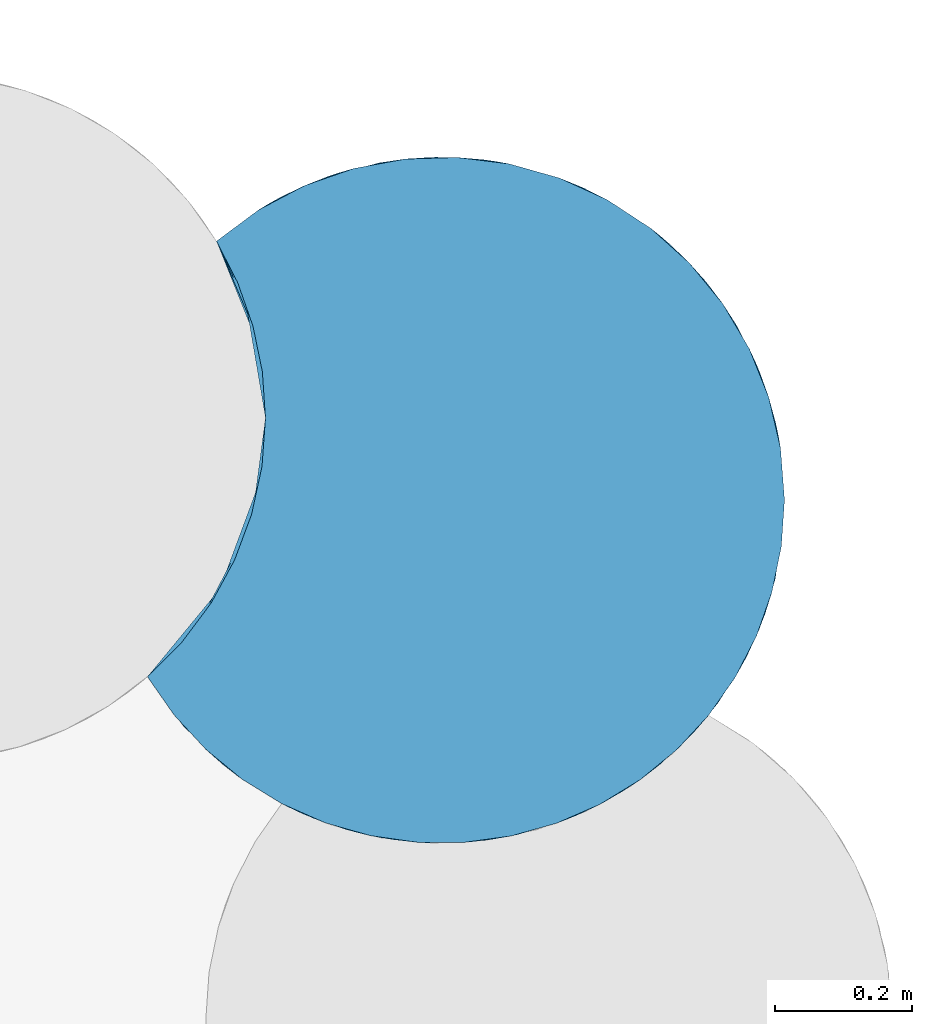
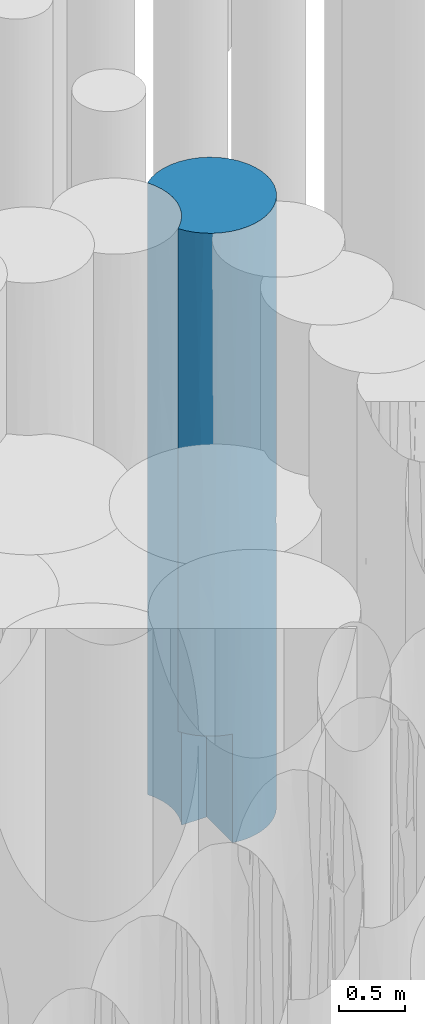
# One storey, part 47 of 104: 1 pile.
"""IFC2X3 building model written with IfcOpenShell, lengths in millimetres."""

from ifc_helpers import new_model, entity, si_unit, converted_unit, derived_unit, direction, frame, origin, place, context, subcontext, project, spatial, faceted_brep, source, transform, mapped, material, element, save


model = new_model("IFC2X3")

# Units and contexts
model_context = context("Model", 3, precision=0.01, world=origin(), true_north=direction((6.12303176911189e-17, 1.0)))
body_context = subcontext(model_context, "Body", "Model", "MODEL_VIEW")
ifc_project = project(units=[si_unit("LENGTHUNIT", "METRE", prefix="MILLI"), si_unit("AREAUNIT", "SQUARE_METRE", prefix="MILLI"), si_unit("VOLUMEUNIT", "CUBIC_METRE"), converted_unit("PLANEANGLEUNIT", "DEGREE", entity("IfcRatioMeasure", 0.0174532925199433), si_unit("PLANEANGLEUNIT", "RADIAN"), dimensions=[0, 0, 0, 0, 0, 0, 0]), si_unit("MASSUNIT", "GRAM", prefix="KILO"), derived_unit("MASSDENSITYUNIT", [(si_unit("MASSUNIT", "GRAM", prefix="KILO"), 1), (si_unit("LENGTHUNIT", "METRE"), -3)]), derived_unit("MOMENTOFINERTIAUNIT", [(si_unit("LENGTHUNIT", "METRE"), 4)]), si_unit("TIMEUNIT", "SECOND"), si_unit("FREQUENCYUNIT", "HERTZ"), si_unit("THERMODYNAMICTEMPERATUREUNIT", "DEGREE_CELSIUS"), derived_unit("THERMALTRANSMITTANCEUNIT", [(si_unit("MASSUNIT", "GRAM", prefix="KILO"), 1), (si_unit("THERMODYNAMICTEMPERATUREUNIT", "KELVIN"), -1), (si_unit("TIMEUNIT", "SECOND"), -3)]), derived_unit("VOLUMETRICFLOWRATEUNIT", [(si_unit("LENGTHUNIT", "METRE"), 3), (si_unit("TIMEUNIT", "SECOND"), -1)]), si_unit("ELECTRICCURRENTUNIT", "AMPERE"), si_unit("ELECTRICVOLTAGEUNIT", "VOLT"), si_unit("POWERUNIT", "WATT"), si_unit("FORCEUNIT", "NEWTON", prefix="KILO"), si_unit("ILLUMINANCEUNIT", "LUX"), si_unit("LUMINOUSFLUXUNIT", "LUMEN"), si_unit("LUMINOUSINTENSITYUNIT", "CANDELA"), derived_unit("USERDEFINED", [(si_unit("MASSUNIT", "GRAM", prefix="KILO"), -1), (si_unit("LENGTHUNIT", "METRE"), -2), (si_unit("TIMEUNIT", "SECOND"), 3), (si_unit("LUMINOUSFLUXUNIT", "LUMEN"), 1)]), derived_unit("LINEARVELOCITYUNIT", [(si_unit("LENGTHUNIT", "METRE"), 1), (si_unit("TIMEUNIT", "SECOND"), -1)]), si_unit("PRESSUREUNIT", "PASCAL"), derived_unit("USERDEFINED", [(si_unit("LENGTHUNIT", "METRE"), -2), (si_unit("MASSUNIT", "GRAM", prefix="KILO"), 1), (si_unit("TIMEUNIT", "SECOND"), -2)]), derived_unit("LINEARFORCEUNIT", [(si_unit("MASSUNIT", "GRAM", prefix="KILO"), 1), (si_unit("LENGTHUNIT", "METRE"), 1), (si_unit("TIMEUNIT", "SECOND"), -2), (si_unit("LENGTHUNIT", "METRE"), -1)]), derived_unit("PLANARFORCEUNIT", [(si_unit("MASSUNIT", "GRAM", prefix="KILO"), 1), (si_unit("LENGTHUNIT", "METRE"), 1), (si_unit("TIMEUNIT", "SECOND"), -2), (si_unit("LENGTHUNIT", "METRE"), -2)])], contexts=[model_context])

# Site, building, storey
site_placement = place(None, origin())
site = spatial("IfcSite", under=ifc_project, at=site_placement, Name="Theater aan de Parade", CompositionType="ELEMENT")
building_placement = place(site_placement, origin())
building = spatial("IfcBuilding", under=site, at=building_placement, Name="Theater aan de Parade", CompositionType="ELEMENT")
storey_placement = place(building_placement, frame((0.0, 0.0, -5520.0)))
storey = spatial("IfcBuildingStorey", under=building, at=storey_placement, Name="-2 kelder", CompositionType="ELEMENT", Elevation=-5520.0)

# Pile
ifc_material = material(Name="00_PBT_MAT_grout")
shared_shape = source(origin(), body_context, "Body", "Brep", [
    faceted_brep([(602.379186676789, 970.548209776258, 0.0), (671.652243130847, 938.971021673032, 0.0), (735.328670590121, 897.242568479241, 0.0), (791.932117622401, 846.330048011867, 0.0), (840.150143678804, 787.413596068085, 0.0), (878.864648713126, 721.858943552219, 0.0), (907.177801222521, 651.185770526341, 0.0), (924.432800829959, 577.032898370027, 0.0), (930.229431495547, 501.118276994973, 0.0), (925.639370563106, 433.523955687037, 0.0), (911.956450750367, 367.181430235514, 0.0), (889.432574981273, 303.298983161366, 0.0), (858.482788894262, 243.050336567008, 0.0), (819.667111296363, 187.535826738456, 0.0), (774.363740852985, 138.390311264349, 0.0), (722.901318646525, 95.7256691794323, 0.0), (666.208283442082, 60.3076811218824, 0.0), (605.297210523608, 32.7687571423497, 0.0), (541.255826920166, 13.6009547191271, 0.0), (475.227722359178, 3.14723986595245, 0.0), (408.394420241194, 1.5952722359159, 0.0), (341.942729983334, 8.97453951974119, 0.0), (341.942729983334, 401.118276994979, 0.0), (122.656889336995, 401.118276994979, 0.0), (144.750451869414, 453.57155352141, 0.0), (160.738279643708, 508.189963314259, 0.0), (170.415249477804, 564.265502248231, 0.0), (173.658002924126, 621.118276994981, 0.0), (169.094257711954, 688.519444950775, 0.0), (155.486333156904, 754.690205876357, 0.0), (133.082641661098, 818.422613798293, 0.0), (102.292162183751, 878.553234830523, 0.0), (163.390066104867, 923.96192786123, 0.0), (230.677296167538, 959.571050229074, 0.0), (302.59079739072, 984.552221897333, 0.0), (377.463519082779, 998.326240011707, 0.0), (453.559788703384, 1000.57367483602, 0.0), (529.115537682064, 991.242279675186, 0.0), (817.164120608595, 817.790894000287, 4647.76836272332), (840.877709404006, 786.369029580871, 3611.80782436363), (764.600815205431, 872.865204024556, 3887.8370042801), (888.590771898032, 700.880339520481, 4800.81849770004), (917.218740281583, 614.438236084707, 4681.73780230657), (894.368330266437, 687.062039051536, 3965.79139462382), (377.463518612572, 998.326239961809, 5620.0), (382.61058385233, 998.845557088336, 4508.85922533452), (302.590796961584, 984.55222178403, 5620.0), (922.217157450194, 590.270268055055, 1092.91890815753), (837.16657048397, 791.638783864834, 1111.19786070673), (894.36833103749, 687.062037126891, 1289.1442811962), (510.586943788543, 994.618702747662, 866.478931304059), (637.617585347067, 956.079982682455, 1373.4982588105), (930.229431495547, 501.118276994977, 5620.0), (930.229431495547, 501.118276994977, 4058.46227496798), (860.756925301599, 755.374205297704, 2426.74785478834), (266.157907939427, 973.432298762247, 4330.96133337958), (764.600815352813, 872.865203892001, 1592.21744019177), (453.559788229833, 1000.57367485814, 5620.0), (491.5155196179, 997.348077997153, 4027.88301993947), (812.660521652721, 823.215251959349, 2849.13152232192), (745.444852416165, 889.240987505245, 2740.02722187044), (750.032848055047, 885.469385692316, 4753.52187099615), (791.932117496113, 846.330048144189, 5620.0), (230.677295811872, 959.571050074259, 5620.0), (637.617584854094, 956.079982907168, 2810.0), (637.61758521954, 956.079982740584, 4246.53090933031), (920.153425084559, 600.990598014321, 3173.44484994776), (930.229431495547, 501.118276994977, 2496.92454993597), (919.143252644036, 605.823938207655, 2029.23111081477), (491.515519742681, 997.348077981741, 1732.1553657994), (415.468817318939, 1000.90035377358, 972.222106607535), (907.17780121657, 651.185770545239, 5620.0), (840.150143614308, 787.413596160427, 5620.0), (102.292162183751, 878.553234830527, 1561.53797614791), (196.354976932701, 943.04897235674, 938.288487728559), (422.508702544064, 1001.0586637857, 2770.86397392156), (516.435165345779, 993.630785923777, 2880.01919244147), (735.328670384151, 897.242568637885, 5620.0), (280.387611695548, 978.137594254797, 819.251114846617), (930.229431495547, 501.118276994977, 1561.53772503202), (102.292162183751, 878.553234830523, 4058.46202385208), (188.599272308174, 938.856630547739, 3590.76885427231), (102.292162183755, 878.553234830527, 3123.07595229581), (184.286943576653, 936.448373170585, 2446.64862878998), (174.837858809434, 930.973071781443, 4526.92521130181), (266.157908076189, 973.432298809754, 1654.3025538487), (671.652242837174, 938.97102183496, 5620.0), (924.432800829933, 577.032898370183, 5620.0), (602.379186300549, 970.548209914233, 5620.0), (339.764625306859, 992.866300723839, 3193.45998080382), (102.292162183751, 878.553234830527, 2809.99988146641), (529.115537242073, 991.24227976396, 5620.0), (102.292162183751, 878.553234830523, 5620.0), (163.390065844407, 923.961927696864, 5620.0), (376.201088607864, 998.190644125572, 2008.1114931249), (930.229431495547, 501.118276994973, 3123.07541184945), (878.864648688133, 721.85894360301, 5620.0), (112.330746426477, 115.190270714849, 2432.4527543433), (139.360981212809, 94.4297664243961, 1000.0), (207.44649744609, 53.4936973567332, 2092.86011454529), (859.224380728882, 244.284997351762, 922.688338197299), (220.270624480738, 47.3371630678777, 3310.0051591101), (228.323333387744, 43.6973247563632, 4485.24606561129), (112.327299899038, 115.193109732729, 4187.52616095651), (857.344461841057, 241.170684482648, 4514.37585468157), (797.189176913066, 161.500042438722, 4253.62067837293), (874.986392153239, 272.66424234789, 3618.7287350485), (925.639130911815, 433.522199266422, 5620.0), (316.87091616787, 14.1379416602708, 2334.37129247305), (315.624445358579, 14.4297758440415, 3263.90191571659), (243.757280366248, 37.1914111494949, 1000.0), (292.096217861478, 20.5777320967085, 1000.0), (772.950145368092, 137.054392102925, 5620.0), (715.911804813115, 90.7701545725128, 4577.41783906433), (508.416679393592, 7.26935853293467, 1256.01248031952), (901.780545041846, 334.866818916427, 4546.68305829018), (260.280037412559, 30.8872662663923, 5620.0), (197.323929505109, 58.6761597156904, 5620.0), (341.942729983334, 8.97453951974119, 1000.0), (531.607091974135, 11.5035611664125, 5620.0), (463.410462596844, 2.22047265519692, 5620.0), (497.668695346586, 5.68720641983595, 4378.51461426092), (901.777556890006, 334.858343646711, 978.988787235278), (1.5952722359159, 243.683319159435, 5620.0), (1.5952722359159, 243.683319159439, 4123.07541539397), (40.5732877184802, 187.800403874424, 5620.0), (134.631249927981, 97.854448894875, 3309.99552652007), (40.5700496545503, 187.804430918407, 1000.0), (86.7776368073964, 137.744000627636, 1000.0), (695.147361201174, 77.0681732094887, 913.893280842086), (889.437493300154, 303.310400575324, 5620.0), (911.957935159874, 367.186769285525, 5620.0), (797.845273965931, 162.210336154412, 1300.82977516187), (629.913705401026, 42.7230427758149, 4060.89197332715), (660.99086523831, 57.5541207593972, 5620.0), (597.889442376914, 30.0661347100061, 5620.0), (139.354647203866, 94.4342966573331, 5620.0), (86.776806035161, 137.74478585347, 5620.0), (402.252829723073, 1.90158080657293, 2809.25329413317), (360.355783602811, 6.02467642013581, 4094.04756058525), (326.451558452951, 12.0066812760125, 5620.0), (409.457532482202, 1.54993511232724, 1798.029960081), (500.789888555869, 6.12209327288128, 2175.53566695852), (749.346339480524, 116.196987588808, 2809.05103394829), (710.107385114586, 86.7895052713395, 3636.96916286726), (621.660309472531, 39.2154528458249, 2855.80872846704), (394.591288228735, 2.38997145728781, 5620.0), (874.979063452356, 272.64997531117, 1795.96369839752), (893.609974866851, 313.292634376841, 2707.31299488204), (833.449489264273, 205.460391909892, 2671.92138133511), (613.343007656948, 35.8555359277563, 842.186307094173), (917.112180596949, 387.341352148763, 2008.15397319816), (636.213487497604, 45.519145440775, 1656.73534018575), (497.668695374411, 5.68720642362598, 3097.33110607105), (719.714420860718, 93.4438469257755, 5620.0), (728.048723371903, 99.4919962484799, 1842.46349509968), (1.59527223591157, 243.683319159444, 1000.0), (1.59527223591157, 243.683319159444, 2561.53770769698), (858.492929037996, 243.067164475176, 5620.0), (53.8598302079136, 171.958857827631, 3342.3065615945), (819.68864238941, 187.555646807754, 5620.0), (917.161128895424, 387.551019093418, 3535.06482043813), (197.333690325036, 58.6710216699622, 1000.0), (133.082641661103, 818.422613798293, 5620.0), (155.486333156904, 754.690205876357, 5620.0), (169.094257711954, 688.51944495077, 5620.0), (173.658002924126, 621.118276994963, 5620.0), (168.58462983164, 550.071574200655, 5620.0), (153.467467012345, 480.466657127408, 5620.0), (128.613294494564, 413.716052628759, 5620.0), (94.5264902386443, 351.174363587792, 5620.0), (51.8987945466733, 294.110779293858, 5620.0), (161.541480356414, 730.524458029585, 1092.88441619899), (173.658002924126, 621.118276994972, 4058.46227465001), (145.362086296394, 786.935217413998, 4605.38443246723), (155.48633272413, 754.690207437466, 2185.76883771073), (173.658002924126, 621.118276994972, 1561.53772534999), (173.658002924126, 621.118276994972, 2810.0), (173.658002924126, 621.118276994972, 3123.07545069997), (155.48633232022, 754.69020889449, 3590.76885139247), (107.009619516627, 371.706215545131, 1936.48059374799), (122.65688933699, 401.11827699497, 1000.0), (89.438430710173, 343.401450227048, 1000.0), (48.8445294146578, 290.610984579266, 1000.0), (84.1586846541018, 335.655161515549, 4448.35609212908), (107.009619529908, 371.706215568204, 2921.74275712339), (164.835477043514, 527.605235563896, 3434.23114696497), (156.132399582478, 489.899160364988, 2429.11167532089), (161.913372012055, 513.383906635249, 1098.76556351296), (166.497327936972, 536.801020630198, 4650.05974411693), (142.230513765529, 446.648216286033, 4183.22427193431), (341.942729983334, 401.118276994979, 1000.0)], [[[0, 1, 2, 3, 4, 5, 6, 7, 8, 9, 10, 11, 12, 13, 14, 15, 16, 17, 18, 19, 20, 21, 22, 23, 24, 25, 26, 27, 28, 29, 30, 31, 32, 33, 34, 35, 36, 37]], [[38, 39, 40]], [[41, 42, 43]], [[44, 45, 46]], [[7, 47, 8]], [[5, 48, 49]], [[50, 37, 36]], [[1, 0, 51]], [[52, 53, 42]], [[48, 54, 49]], [[55, 46, 45]], [[56, 3, 2]], [[45, 57, 58]], [[59, 56, 60]], [[61, 62, 38]], [[63, 46, 55]], [[47, 6, 49]], [[40, 64, 65]], [[66, 67, 68]], [[49, 6, 5]], [[69, 64, 51]], [[38, 40, 61]], [[56, 2, 51]], [[50, 70, 69]], [[71, 42, 41]], [[38, 62, 72]], [[31, 73, 74]], [[41, 38, 72]], [[75, 58, 76]], [[62, 61, 77]], [[70, 36, 35]], [[78, 33, 74]], [[79, 68, 67]], [[36, 70, 50]], [[80, 81, 82]], [[48, 3, 56]], [[49, 68, 47]], [[82, 81, 83]], [[81, 80, 84]], [[78, 74, 85]], [[86, 77, 61]], [[42, 71, 87]], [[60, 51, 64]], [[76, 65, 64]], [[84, 63, 55]], [[74, 33, 32]], [[86, 65, 88]], [[51, 2, 1]], [[55, 45, 89]], [[35, 78, 70]], [[83, 73, 90, 82]], [[65, 91, 88]], [[91, 58, 57]], [[4, 48, 5]], [[92, 93, 84]], [[70, 94, 69]], [[69, 76, 64]], [[0, 37, 50]], [[40, 60, 64]], [[68, 79, 47]], [[58, 91, 65]], [[55, 81, 84]], [[66, 53, 95, 67]], [[41, 72, 96]], [[38, 41, 39]], [[78, 35, 34]], [[70, 78, 94]], [[52, 42, 87]], [[66, 42, 53]], [[31, 74, 32]], [[83, 74, 73]], [[49, 54, 68]], [[66, 54, 43]], [[55, 89, 81]], [[83, 89, 85]], [[43, 54, 39]], [[59, 39, 54]], [[85, 89, 94]], [[75, 94, 89]], [[54, 66, 68]], [[66, 43, 42]], [[89, 83, 81]], [[83, 85, 74]], [[8, 47, 79]], [[6, 47, 7]], [[92, 84, 80]], [[63, 84, 93]], [[40, 65, 61]], [[86, 61, 65]], [[69, 51, 50]], [[0, 50, 51]], [[41, 43, 39]], [[71, 41, 96]], [[78, 85, 94]], [[33, 78, 34]], [[40, 39, 59]], [[51, 60, 56]], [[69, 94, 75]], [[65, 76, 58]], [[3, 48, 4]], [[54, 48, 56]], [[57, 45, 44]], [[89, 45, 58]], [[56, 59, 54]], [[40, 59, 60]], [[58, 75, 89]], [[69, 75, 76]], [[97, 98, 99]], [[100, 13, 12]], [[101, 102, 103]], [[104, 105, 106]], [[107, 53, 52]], [[108, 109, 101]], [[99, 110, 111]], [[112, 113, 105]], [[19, 114, 20]], [[107, 115, 53]], [[99, 111, 108]], [[116, 117, 102]], [[118, 21, 20]], [[108, 111, 118]], [[119, 120, 121]], [[9, 122, 10]], [[123, 124, 125]], [[101, 126, 99]], [[97, 127, 128]], [[14, 129, 15]], [[98, 97, 128]], [[124, 103, 125]], [[130, 115, 131]], [[132, 14, 13]], [[19, 18, 114]], [[133, 134, 135]], [[136, 137, 103]], [[136, 103, 102]], [[122, 11, 10]], [[138, 139, 109]], [[102, 139, 140]], [[140, 116, 102]], [[141, 142, 138]], [[143, 144, 145]], [[139, 146, 140]], [[147, 148, 149]], [[121, 146, 139]], [[108, 141, 138]], [[18, 17, 150]], [[151, 122, 79]], [[129, 152, 150]], [[133, 121, 153]], [[129, 16, 15]], [[102, 117, 136]], [[20, 114, 118]], [[132, 129, 14]], [[12, 11, 100]], [[152, 145, 142]], [[145, 133, 153]], [[112, 154, 113]], [[148, 147, 151]], [[155, 152, 129]], [[149, 132, 147]], [[11, 122, 100]], [[156, 127, 157]], [[149, 105, 143]], [[121, 120, 146]], [[130, 158, 104]], [[129, 150, 16]], [[16, 150, 17]], [[133, 135, 121]], [[119, 121, 135]], [[122, 147, 100]], [[139, 153, 121]], [[134, 133, 113]], [[103, 124, 159]], [[106, 115, 104]], [[160, 112, 105]], [[125, 103, 137]], [[113, 144, 105]], [[147, 122, 151]], [[104, 160, 105]], [[97, 99, 126]], [[107, 131, 115]], [[9, 79, 122]], [[159, 124, 157]], [[161, 53, 115]], [[9, 8, 79]], [[127, 97, 157]], [[102, 101, 109]], [[161, 115, 106]], [[162, 99, 98]], [[155, 143, 145]], [[151, 79, 67, 95]], [[151, 95, 161]], [[129, 132, 155]], [[149, 155, 132]], [[161, 106, 148]], [[53, 161, 95]], [[147, 132, 100]], [[13, 100, 132]], [[152, 114, 150]], [[18, 150, 114]], [[161, 148, 151]], [[106, 105, 149]], [[106, 149, 148]], [[149, 143, 155]], [[130, 104, 115]], [[160, 104, 158]], [[138, 109, 108]], [[102, 109, 139]], [[108, 118, 141]], [[139, 138, 153]], [[118, 114, 141]], [[142, 141, 114]], [[152, 142, 114]], [[138, 142, 153]], [[142, 145, 153]], [[145, 152, 155]], [[157, 97, 159]], [[126, 159, 97]], [[110, 99, 162]], [[101, 99, 108]], [[101, 103, 126]], [[159, 126, 103]], [[134, 113, 154]], [[144, 113, 133]], [[145, 144, 133]], [[105, 144, 143]], [[86, 88, 91, 57, 44, 46, 63, 93, 92, 163, 164, 165, 166, 167, 168, 169, 170, 171, 123, 125, 137, 136, 117, 116, 140, 146, 120, 119, 135, 134, 154, 112, 160, 158, 130, 131, 107, 52, 87, 71, 96, 72, 62, 77]], [[30, 172, 73]], [[173, 165, 174]], [[73, 31, 30]], [[172, 175, 73]], [[28, 27, 172]], [[164, 174, 165]], [[90, 73, 175]], [[175, 176, 177, 178]], [[173, 174, 179]], [[172, 29, 28]], [[178, 173, 179, 175]], [[173, 166, 165]], [[174, 163, 92]], [[174, 80, 179]], [[174, 164, 163]], [[80, 174, 92]], [[179, 80, 82, 90, 175]], [[176, 175, 172]], [[27, 176, 172]], [[30, 29, 172]], [[180, 181, 182]], [[180, 182, 183]], [[24, 23, 181]], [[169, 184, 170]], [[157, 124, 185, 180]], [[186, 187, 185]], [[157, 180, 183]], [[25, 188, 26]], [[188, 24, 181]], [[188, 176, 27]], [[124, 123, 171]], [[167, 166, 189]], [[184, 124, 171]], [[190, 186, 185]], [[26, 188, 27]], [[186, 173, 178, 177]], [[187, 180, 185]], [[188, 181, 180]], [[190, 169, 168]], [[186, 177, 187]], [[169, 190, 184]], [[180, 187, 188]], [[185, 184, 190]], [[190, 168, 189]], [[189, 186, 190]], [[157, 183, 156]], [[188, 25, 24]], [[173, 186, 189]], [[176, 187, 177]], [[176, 188, 187]], [[170, 184, 171]], [[124, 184, 185]], [[173, 189, 166]], [[167, 189, 168]], [[127, 156, 183, 182, 181, 191, 118, 111, 110, 162, 98, 128]], [[191, 181, 23, 22]], [[191, 22, 21, 118]]]),
])
pile_placement = place(storey_placement, frame((38863.0572700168, 26641.2491263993, -3840.0)))
element("IfcPile", 1, at=pile_placement, inside=storey, material=ifc_material, Name="17_PBT_SFO_grondkering_rond:Ø1000 (grondkering)", ObjectType="17_PBT_SFO_grondkering_rond:Ø1000 (grondkering)", PredefinedType="NOTDEFINED", context=body_context, shape_type="MappedRepresentation", body=[
    mapped(shared_shape, transform((0.0, 0.0, 0.0), scale=1.0)),
])

save(model, "model.ifc")
